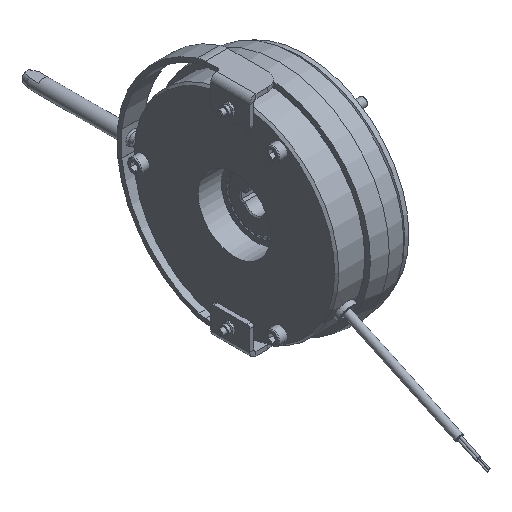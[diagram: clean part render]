
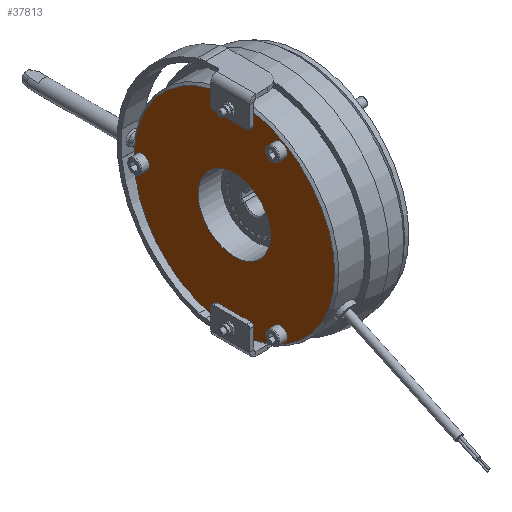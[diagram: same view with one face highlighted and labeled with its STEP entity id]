
A CAD part, isometric view. The second image highlights one B-rep face of the part: STEP entity #37813.
In plain terms, the highlighted planar face has unit normal (-1, 0, 0).
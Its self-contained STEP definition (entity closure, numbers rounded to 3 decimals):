
#2469=FACE_BOUND('',#6720,.T.);
#2470=FACE_BOUND('',#6721,.T.);
#2471=FACE_BOUND('',#6722,.T.);
#2472=FACE_BOUND('',#6723,.T.);
#2878=PLANE('',#41535);
#4859=FACE_OUTER_BOUND('',#6719,.T.);
#6719=EDGE_LOOP('',(#33558,#33559,#33560,#33561,#33562,#33563,#33564,#33565,
#33566,#33567,#33568,#33569,#33570));
#6720=EDGE_LOOP('',(#33571,#33572));
#6721=EDGE_LOOP('',(#33573,#33574));
#6722=EDGE_LOOP('',(#33575,#33576));
#6723=EDGE_LOOP('',(#33577));
#8851=LINE('',#69580,#11071);
#8855=LINE('',#69597,#11075);
#8862=LINE('',#69614,#11082);
#8882=LINE('',#69681,#11102);
#8888=LINE('',#69693,#11108);
#8902=LINE('',#69729,#11122);
#11071=VECTOR('',#50664,10.);
#11075=VECTOR('',#50682,10.);
#11082=VECTOR('',#50697,10.);
#11102=VECTOR('',#50763,10.);
#11108=VECTOR('',#50779,10.);
#11122=VECTOR('',#50821,10.);
#13072=CIRCLE('',#41150,5.);
#13073=CIRCLE('',#41151,5.);
#13086=CIRCLE('',#41178,5.);
#13087=CIRCLE('',#41179,5.);
#13100=CIRCLE('',#41206,5.);
#13101=CIRCLE('',#41207,5.);
#13199=CIRCLE('',#41400,2.);
#13201=CIRCLE('',#41404,2.);
#13203=CIRCLE('',#41407,2.);
#13205=CIRCLE('',#41411,2.);
#13259=CIRCLE('',#41536,72.);
#13260=CIRCLE('',#41537,72.);
#13261=CIRCLE('',#41538,72.);
#13262=CIRCLE('',#41539,26.);
#16639=VERTEX_POINT('',#68687);
#16640=VERTEX_POINT('',#68688);
#16666=VERTEX_POINT('',#68779);
#16667=VERTEX_POINT('',#68780);
#16693=VERTEX_POINT('',#68871);
#16694=VERTEX_POINT('',#68872);
#16844=VERTEX_POINT('',#69531);
#16845=VERTEX_POINT('',#69532);
#16851=VERTEX_POINT('',#69547);
#16852=VERTEX_POINT('',#69548);
#16862=VERTEX_POINT('',#69570);
#16863=VERTEX_POINT('',#69572);
#16865=VERTEX_POINT('',#69578);
#16867=VERTEX_POINT('',#69584);
#16870=VERTEX_POINT('',#69591);
#16871=VERTEX_POINT('',#69593);
#16875=VERTEX_POINT('',#69605);
#16876=VERTEX_POINT('',#69607);
#16950=VERTEX_POINT('',#69908);
#16951=VERTEX_POINT('',#69912);
#22052=EDGE_CURVE('',#16639,#16640,#13072,.T.);
#22053=EDGE_CURVE('',#16640,#16639,#13073,.T.);
#22089=EDGE_CURVE('',#16666,#16667,#13086,.T.);
#22090=EDGE_CURVE('',#16667,#16666,#13087,.T.);
#22126=EDGE_CURVE('',#16693,#16694,#13100,.T.);
#22127=EDGE_CURVE('',#16694,#16693,#13101,.T.);
#22366=EDGE_CURVE('',#16863,#16862,#13199,.T.);
#22370=EDGE_CURVE('',#16862,#16865,#8851,.T.);
#22373=EDGE_CURVE('',#16865,#16867,#13201,.T.);
#22376=EDGE_CURVE('',#16871,#16870,#13203,.T.);
#22378=EDGE_CURVE('',#16852,#16871,#8855,.T.);
#22383=EDGE_CURVE('',#16876,#16875,#13205,.T.);
#22387=EDGE_CURVE('',#16875,#16851,#8862,.T.);
#22419=EDGE_CURVE('',#16845,#16863,#8882,.T.);
#22427=EDGE_CURVE('',#16867,#16844,#8888,.T.);
#22446=EDGE_CURVE('',#16870,#16876,#8902,.T.);
#22531=EDGE_CURVE('',#16950,#16844,#13259,.T.);
#22532=EDGE_CURVE('',#16852,#16950,#13260,.T.);
#22533=EDGE_CURVE('',#16845,#16851,#13261,.T.);
#22534=EDGE_CURVE('',#16951,#16951,#13262,.T.);
#33558=ORIENTED_EDGE('',*,*,#22419,.T.);
#33559=ORIENTED_EDGE('',*,*,#22366,.T.);
#33560=ORIENTED_EDGE('',*,*,#22370,.T.);
#33561=ORIENTED_EDGE('',*,*,#22373,.T.);
#33562=ORIENTED_EDGE('',*,*,#22427,.T.);
#33563=ORIENTED_EDGE('',*,*,#22531,.F.);
#33564=ORIENTED_EDGE('',*,*,#22532,.F.);
#33565=ORIENTED_EDGE('',*,*,#22378,.T.);
#33566=ORIENTED_EDGE('',*,*,#22376,.T.);
#33567=ORIENTED_EDGE('',*,*,#22446,.T.);
#33568=ORIENTED_EDGE('',*,*,#22383,.T.);
#33569=ORIENTED_EDGE('',*,*,#22387,.T.);
#33570=ORIENTED_EDGE('',*,*,#22533,.F.);
#33571=ORIENTED_EDGE('',*,*,#22052,.T.);
#33572=ORIENTED_EDGE('',*,*,#22053,.T.);
#33573=ORIENTED_EDGE('',*,*,#22089,.T.);
#33574=ORIENTED_EDGE('',*,*,#22090,.T.);
#33575=ORIENTED_EDGE('',*,*,#22126,.T.);
#33576=ORIENTED_EDGE('',*,*,#22127,.T.);
#33577=ORIENTED_EDGE('',*,*,#22534,.T.);
#37813=ADVANCED_FACE('',(#4859,#2469,#2470,#2471,#2472),#2878,.T.);
#41150=AXIS2_PLACEMENT_3D('',#68689,#50046,#50047);
#41151=AXIS2_PLACEMENT_3D('',#68690,#50048,#50049);
#41178=AXIS2_PLACEMENT_3D('',#68781,#50118,#50119);
#41179=AXIS2_PLACEMENT_3D('',#68782,#50120,#50121);
#41206=AXIS2_PLACEMENT_3D('',#68873,#50190,#50191);
#41207=AXIS2_PLACEMENT_3D('',#68874,#50192,#50193);
#41400=AXIS2_PLACEMENT_3D('',#69573,#50657,#50658);
#41404=AXIS2_PLACEMENT_3D('',#69586,#50670,#50671);
#41407=AXIS2_PLACEMENT_3D('',#69594,#50677,#50678);
#41411=AXIS2_PLACEMENT_3D('',#69608,#50690,#50691);
#41535=AXIS2_PLACEMENT_3D('',#69907,#51028,#51029);
#41536=AXIS2_PLACEMENT_3D('',#69909,#51030,#51031);
#41537=AXIS2_PLACEMENT_3D('',#69910,#51032,#51033);
#41538=AXIS2_PLACEMENT_3D('',#69911,#51034,#51035);
#41539=AXIS2_PLACEMENT_3D('',#69913,#51036,#51037);
#50046=DIRECTION('center_axis',(1.,0.,0.));
#50047=DIRECTION('ref_axis',(0.,1.,0.));
#50048=DIRECTION('center_axis',(1.,0.,0.));
#50049=DIRECTION('ref_axis',(0.,1.,0.));
#50118=DIRECTION('center_axis',(1.,0.,0.));
#50119=DIRECTION('ref_axis',(0.,1.,0.));
#50120=DIRECTION('center_axis',(1.,0.,0.));
#50121=DIRECTION('ref_axis',(0.,1.,0.));
#50190=DIRECTION('center_axis',(1.,0.,0.));
#50191=DIRECTION('ref_axis',(0.,1.,0.));
#50192=DIRECTION('center_axis',(1.,0.,0.));
#50193=DIRECTION('ref_axis',(0.,1.,0.));
#50657=DIRECTION('center_axis',(1.,0.,0.));
#50658=DIRECTION('ref_axis',(0.,-0.707,-0.707));
#50664=DIRECTION('',(0.,1.,0.));
#50670=DIRECTION('center_axis',(1.,0.,0.));
#50671=DIRECTION('ref_axis',(0.,0.707,-0.707));
#50677=DIRECTION('center_axis',(1.,0.,0.));
#50678=DIRECTION('ref_axis',(0.,0.707,0.707));
#50682=DIRECTION('',(0.,0.,1.));
#50690=DIRECTION('center_axis',(1.,0.,0.));
#50691=DIRECTION('ref_axis',(0.,-0.707,0.707));
#50697=DIRECTION('',(0.,0.,-1.));
#50763=DIRECTION('',(0.,0.,-1.));
#50779=DIRECTION('',(0.,0.,1.));
#50821=DIRECTION('',(0.,-1.,0.));
#51028=DIRECTION('center_axis',(-1.,0.,0.));
#51029=DIRECTION('ref_axis',(0.,0.,
1.));
#51030=DIRECTION('center_axis',(1.,0.,0.));
#51031=DIRECTION('ref_axis',(0.,-1.,0.));
#51032=DIRECTION('center_axis',(1.,0.,0.));
#51033=DIRECTION('ref_axis',(0.,-1.,0.));
#51034=DIRECTION('center_axis',(1.,0.,0.));
#51035=DIRECTION('ref_axis',(0.,-1.,0.));
#51036=DIRECTION('center_axis',(1.,0.,0.));
#51037=DIRECTION('ref_axis',(0.,0.,
1.));
#68687=CARTESIAN_POINT('',(-23.5,-28.,-57.158));
#68688=CARTESIAN_POINT('',(-23.5,-38.,-57.158));
#68689=CARTESIAN_POINT('Origin',(-23.5,-33.,-57.158));
#68690=CARTESIAN_POINT('Origin',(-23.5,-33.,-57.158));
#68779=CARTESIAN_POINT('',(-23.5,-28.,57.158));
#68780=CARTESIAN_POINT('',(-23.5,-38.,57.158));
#68781=CARTESIAN_POINT('Origin',(-23.5,-33.,57.158));
#68782=CARTESIAN_POINT('Origin',(-23.5,-33.,57.158));
#68871=CARTESIAN_POINT('',(-23.5,71.,0.));
#68872=CARTESIAN_POINT('',(-23.5,61.,0.));
#68873=CARTESIAN_POINT('Origin',(-23.5,66.,0.));
#68874=CARTESIAN_POINT('Origin',(-23.5,66.,0.));
#69531=CARTESIAN_POINT('',(-23.5,14.,70.626));
#69532=CARTESIAN_POINT('',(-23.5,-14.,70.626));
#69547=CARTESIAN_POINT('',(-23.5,-14.,-70.626));
#69548=CARTESIAN_POINT('',(-23.5,14.,-70.626));
#69570=CARTESIAN_POINT('',(-23.5,-12.,60.5));
#69572=CARTESIAN_POINT('',(-23.5,-14.,62.5));
#69573=CARTESIAN_POINT('Origin',(-23.5,-12.,62.5));
#69578=CARTESIAN_POINT('',(-23.5,12.,60.5));
#69580=CARTESIAN_POINT('',(-23.5,25.375,60.5));
#69584=CARTESIAN_POINT('',(-23.5,14.,62.5));
#69586=CARTESIAN_POINT('Origin',(-23.5,12.,62.5));
#69591=CARTESIAN_POINT('',(-23.5,12.,-60.5));
#69593=CARTESIAN_POINT('',(-23.5,14.,-62.5));
#69594=CARTESIAN_POINT('Origin',(-23.5,12.,-62.5));
#69597=CARTESIAN_POINT('',(-23.5,14.,-38.5));
#69605=CARTESIAN_POINT('',(-23.5,-14.,-62.5));
#69607=CARTESIAN_POINT('',(-23.5,-12.,-60.5));
#69608=CARTESIAN_POINT('Origin',(-23.5,-12.,-62.5));
#69614=CARTESIAN_POINT('',(-23.5,-14.,-38.5));
#69681=CARTESIAN_POINT('',(-23.5,-14.,38.5));
#69693=CARTESIAN_POINT('',(-23.5,14.,38.5));
#69729=CARTESIAN_POINT('',(-23.5,25.375,-60.5));
#69907=CARTESIAN_POINT('Origin',(-23.5,36.75,0.));
#69908=CARTESIAN_POINT('',(-23.5,72.,0.));
#69909=CARTESIAN_POINT('Origin',(-23.5,0.,0.));
#69910=CARTESIAN_POINT('Origin',(-23.5,0.,0.));
#69911=CARTESIAN_POINT('Origin',(-23.5,0.,0.));
#69912=CARTESIAN_POINT('',(-23.5,0.,-26.));
#69913=CARTESIAN_POINT('Origin',(-23.5,0.,0.));
